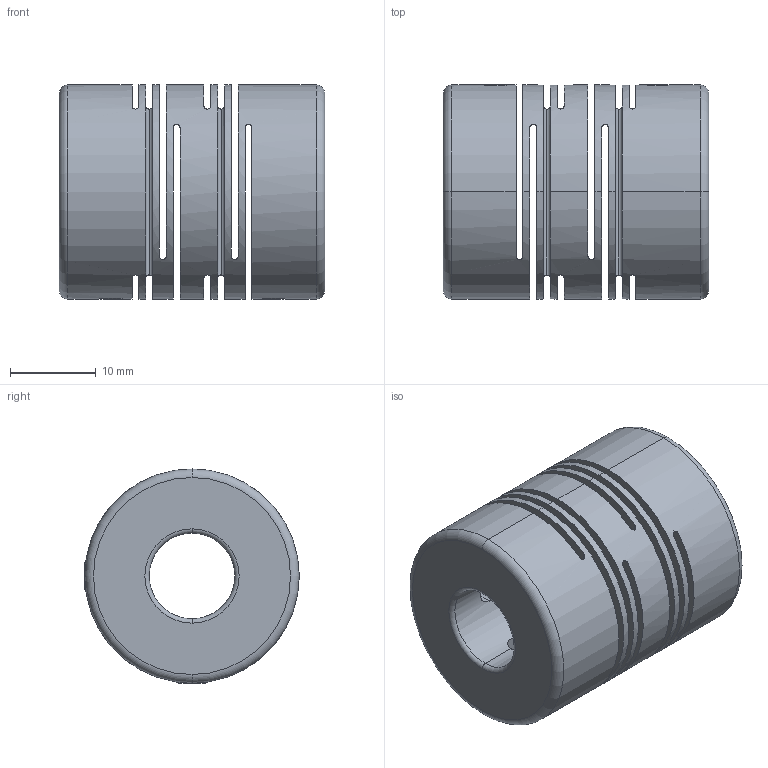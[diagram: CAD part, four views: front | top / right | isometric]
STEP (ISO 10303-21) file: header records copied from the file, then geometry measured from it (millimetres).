
FILE_DESCRIPTION (( 'STEP AP203' ), '1' );
FILE_NAME ('FSMML25-10x11.STEP', '2013-12-23T08:19:27', ( '123' ), ( '' ), 'SwSTEP 2.0', 'SolidWorks 2013', '' );
FILE_SCHEMA (( 'CONFIG_CONTROL_DESIGN' ));
Length unit declared in the file: millimetre
Products named in the file (1): FSMML25-10x11
Bounding box: 31 x 25 x 25 mm (x, y, z)
Surface area: 8966.8 mm2 (no closed solid volume)
Topology: 0 solids, 10 shells, 111 faces, 328 edges, 222 vertices
Faces by surface type: plane 49, cylinder 34, cone 12, bspline 8, torus 8
Entity records: 4562 total; most frequent: CARTESIAN_POINT 1550, DIRECTION 598, ORIENTED_EDGE 582, EDGE_CURVE 328, AXIS2_PLACEMENT_3D 230, VERTEX_POINT 222, LINE 138, VECTOR 138
